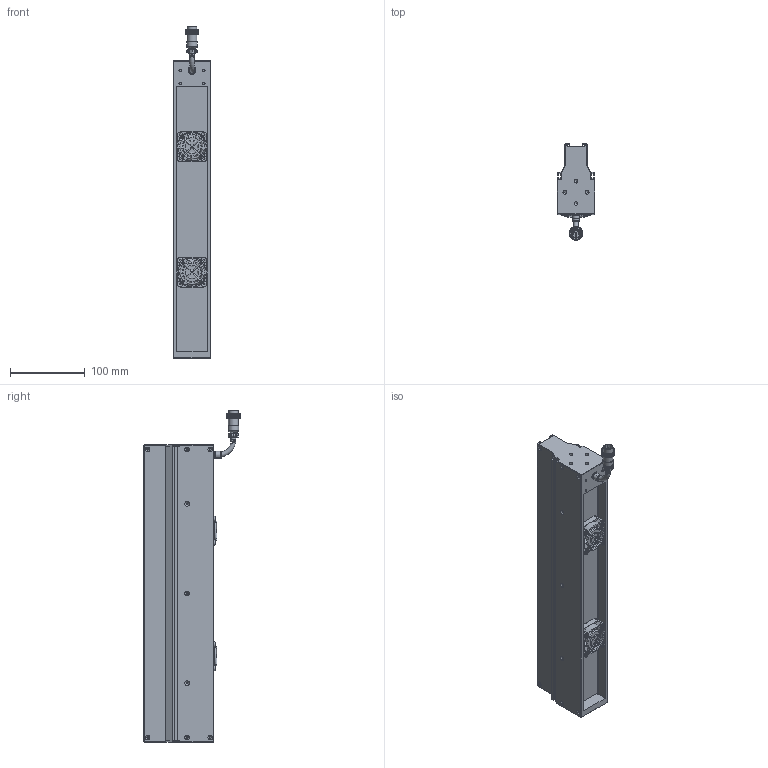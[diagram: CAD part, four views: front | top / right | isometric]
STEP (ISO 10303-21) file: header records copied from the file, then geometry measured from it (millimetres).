
FILE_DESCRIPTION (( 'STEP AP203' ), '1' );
FILE_NAME ('OPT-LSS398-R-V3.1尨砩芞.STEP', '2025-01-21T01:42:49', ( 'USER' ), ( '' ), 'SwSTEP 2.0', 'SolidWorks 2016', '' );
FILE_SCHEMA (( 'CONFIG_CONTROL_DESIGN' ));
Products named in the file (2): OPT-LSS398-R-V3.1尨砩芞
Bounding box: 50 x 129.15 x 444.83 mm (x, y, z)
Volume: 1314536 mm3; surface area: 196683.3 mm2
Topology: 13 solids, 21 shells, 3714 faces, 8209 edges, 4602 vertices
Faces by surface type: bspline 2113, cylinder 760, plane 670, torus 118, cone 53
Full cylindrical faces by diameter (mm): 0.95 x6, 1.1 x2, 1.4 x2, 1.6 x8, 2 x6, 2.5 x18, 3.2 x12, 3.4 x18, 4 x4, 5 x8, 6.2 x8, 6.4 x3, 7.5 x1, 8.6 x1, 9.3 x1, 9.8 x1, 10 x1, 13.2 x1, 14 x1, 16.1 x1, 24.8 x2, 38 x2
Entity records: 125227 total; most frequent: CARTESIAN_POINT 63303, ORIENTED_EDGE 15866, EDGE_CURVE 7933, DIRECTION 6210, B_SPLINE_CURVE_WITH_KNOTS 5588, VERTEX_POINT 4538, EDGE_LOOP 4021, FACE_OUTER_BOUND 3865
